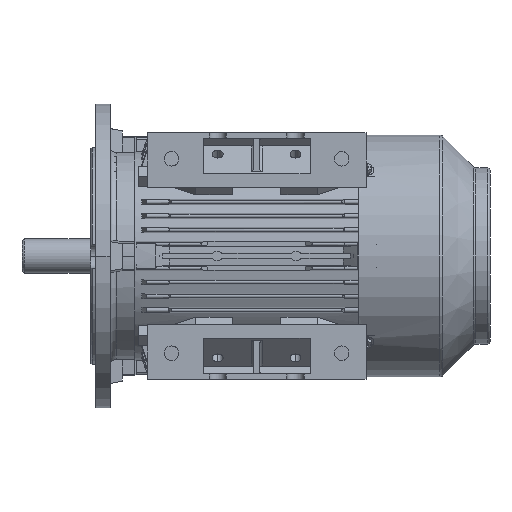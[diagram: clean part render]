
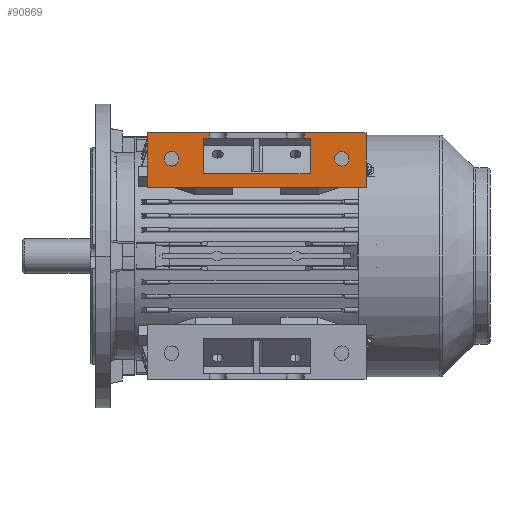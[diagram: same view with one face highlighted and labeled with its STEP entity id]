
A CAD part, front view. The second image highlights one B-rep face of the part: STEP entity #90869.
In plain terms, the highlighted planar face has unit normal (0, -1, 0).
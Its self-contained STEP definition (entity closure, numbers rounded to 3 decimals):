
#1 = CARTESIAN_POINT ( 'NONE',  ( -74.133, -87.16, 56.479 ) ) ;
#683 = AXIS2_PLACEMENT_3D ( 'NONE', #66580, #74823, #108296 ) ;
#728 = VERTEX_POINT ( 'NONE', #33501 ) ;
#3035 = VECTOR ( 'NONE', #37310, 1000. ) ;
#3155 = CARTESIAN_POINT ( 'NONE',  ( -54.133, -87.16, 86.021 ) ) ;
#4647 = ORIENTED_EDGE ( 'NONE', *, *, #31905, .T. ) ;
#4687 = ORIENTED_EDGE ( 'NONE', *, *, #7803, .F. ) ;
#5144 = ORIENTED_EDGE ( 'NONE', *, *, #54396, .T. ) ;
#6354 = DIRECTION ( 'NONE',  ( 0., 0., -1. ) ) ;
#7625 = VERTEX_POINT ( 'NONE', #31729 ) ;
#7803 = EDGE_CURVE ( 'NONE', #97374, #83077, #42104, .T. ) ;
#10520 = CARTESIAN_POINT ( 'NONE',  ( 59.867, -87.16, 101.479 ) ) ;
#10772 = VERTEX_POINT ( 'NONE', #92216 ) ;
#11298 = DIRECTION ( 'NONE',  ( 1., 0., 0. ) ) ;
#15708 = DIRECTION ( 'NONE',  ( 0., 0., 1. ) ) ;
#15928 = DIRECTION ( 'NONE',  ( 0., 1., 0. ) ) ;
#16368 = EDGE_LOOP ( 'NONE', ( #28173, #74440 ) ) ;
#18222 = EDGE_LOOP ( 'NONE', ( #62097, #87445, #101188, #5144, #4687, #4647, #71080, #51390, #89176, #63917, #35383, #18679 ) ) ;
#18399 = DIRECTION ( 'NONE',  ( 0., 1., 0. ) ) ;
#18520 = AXIS2_PLACEMENT_3D ( 'NONE', #89248, #22248, #88166 ) ;
#18620 = VERTEX_POINT ( 'NONE', #62565 ) ;
#18679 = ORIENTED_EDGE ( 'NONE', *, *, #37386, .F. ) ;
#18878 = VERTEX_POINT ( 'NONE', #34884 ) ;
#19263 = VERTEX_POINT ( 'NONE', #64988 ) ;
#20267 = CIRCLE ( 'NONE', #41381, 6. ) ;
#22248 = DIRECTION ( 'NONE',  ( 0., -1., 0. ) ) ;
#23114 = CARTESIAN_POINT ( 'NONE',  ( -34.133, -87.16, 101.479 ) ) ;
#23958 = CARTESIAN_POINT ( 'NONE',  ( -23.133, -87.16, 93.479 ) ) ;
#25573 = VERTEX_POINT ( 'NONE', #65200 ) ;
#25782 = DIRECTION ( 'NONE',  ( 0., 0., 1. ) ) ;
#27321 = DIRECTION ( 'NONE',  ( 0., 0., -1. ) ) ;
#28173 = ORIENTED_EDGE ( 'NONE', *, *, #81021, .T. ) ;
#30507 = CARTESIAN_POINT ( 'NONE',  ( 54.867, -87.16, 93.479 ) ) ;
#30893 = LINE ( 'NONE', #66012, #103493 ) ;
#31675 = LINE ( 'NONE', #23958, #56397 ) ;
#31729 = CARTESIAN_POINT ( 'NONE',  ( 54.867, -87.16, 96.979 ) ) ;
#31905 = EDGE_CURVE ( 'NONE', #97374, #86900, #32915, .T. ) ;
#32347 = CIRCLE ( 'NONE', #683, 6. ) ;
#32915 = LINE ( 'NONE', #76266, #69588 ) ;
#33501 = CARTESIAN_POINT ( 'NONE',  ( -23.133, -87.16, 101.479 ) ) ;
#33716 = CARTESIAN_POINT ( 'NONE',  ( 59.867, -87.16, 67.604 ) ) ;
#34557 = EDGE_CURVE ( 'NONE', #7625, #52439, #38231, .T. ) ;
#34884 = CARTESIAN_POINT ( 'NONE',  ( -74.133, -87.16, 101.479 ) ) ;
#35383 = ORIENTED_EDGE ( 'NONE', *, *, #86100, .F. ) ;
#36264 = EDGE_LOOP ( 'NONE', ( #97220, #39619 ) ) ;
#36375 = LINE ( 'NONE', #10520, #53766 ) ;
#37310 = DIRECTION ( 'NONE',  ( 1., 0., 0. ) ) ;
#37386 = EDGE_CURVE ( 'NONE', #52439, #25573, #39591, .T. ) ;
#38231 = LINE ( 'NONE', #30507, #79834 ) ;
#39572 = VERTEX_POINT ( 'NONE', #1 ) ;
#39591 = LINE ( 'NONE', #23114, #43411 ) ;
#39619 = ORIENTED_EDGE ( 'NONE', *, *, #48372, .T. ) ;
#40095 = DIRECTION ( 'NONE',  ( 0., 1., 0. ) ) ;
#40746 = LINE ( 'NONE', #74237, #87018 ) ;
#41381 = AXIS2_PLACEMENT_3D ( 'NONE', #105462, #40095, #47788 ) ;
#41507 = CARTESIAN_POINT ( 'NONE',  ( 105.867, -87.16, 56.479 ) ) ;
#41685 = DIRECTION ( 'NONE',  ( 1., 0., 0. ) ) ;
#41822 = CIRCLE ( 'NONE', #71662, 6. ) ;
#42104 = LINE ( 'NONE', #75613, #72082 ) ;
#43411 = VECTOR ( 'NONE', #11298, 1000. ) ;
#44439 = CARTESIAN_POINT ( 'NONE',  ( -34.133, -87.16, 96.979 ) ) ;
#47788 = DIRECTION ( 'NONE',  ( 0., 0., 1. ) ) ;
#48372 = EDGE_CURVE ( 'NONE', #18620, #10772, #63304, .T. ) ;
#50515 = CARTESIAN_POINT ( 'NONE',  ( 85.867, -87.16, 80.021 ) ) ;
#50645 = EDGE_CURVE ( 'NONE', #18878, #728, #30893, .T. ) ;
#51390 = ORIENTED_EDGE ( 'NONE', *, *, #50645, .F. ) ;
#52439 = VERTEX_POINT ( 'NONE', #67299 ) ;
#53766 = VECTOR ( 'NONE', #92958, 1000. ) ;
#54396 = EDGE_CURVE ( 'NONE', #70852, #83077, #77863, .T. ) ;
#54697 = FACE_BOUND ( 'NONE', #36264, .T. ) ;
#54890 = VECTOR ( 'NONE', #27321, 1000. ) ;
#55764 = FACE_OUTER_BOUND ( 'NONE', #18222, .T. ) ;
#56397 = VECTOR ( 'NONE', #15708, 1000. ) ;
#57232 = EDGE_CURVE ( 'NONE', #10772, #18620, #32347, .T. ) ;
#59040 = CARTESIAN_POINT ( 'NONE',  ( -74.133, -87.16, 56.479 ) ) ;
#59638 = DIRECTION ( 'NONE',  ( 0., 0., 1. ) ) ;
#62097 = ORIENTED_EDGE ( 'NONE', *, *, #34557, .F. ) ;
#62565 = CARTESIAN_POINT ( 'NONE',  ( 85.867, -87.16, 74.021 ) ) ;
#63113 = LINE ( 'NONE', #44439, #3035 ) ;
#63304 = CIRCLE ( 'NONE', #77329, 6. ) ;
#63917 = ORIENTED_EDGE ( 'NONE', *, *, #99736, .T. ) ;
#64988 = CARTESIAN_POINT ( 'NONE',  ( -54.133, -87.16, 74.021 ) ) ;
#65200 = CARTESIAN_POINT ( 'NONE',  ( 105.867, -87.16, 101.479 ) ) ;
#66012 = CARTESIAN_POINT ( 'NONE',  ( -34.133, -87.16, 101.479 ) ) ;
#66580 = CARTESIAN_POINT ( 'NONE',  ( 85.867, -87.16, 80.021 ) ) ;
#67299 = CARTESIAN_POINT ( 'NONE',  ( 54.867, -87.16, 101.479 ) ) ;
#68431 = CARTESIAN_POINT ( 'NONE',  ( -54.133, -87.16, 80.021 ) ) ;
#69081 = LINE ( 'NONE', #102541, #54890 ) ;
#69588 = VECTOR ( 'NONE', #41685, 1000. ) ;
#69645 = CARTESIAN_POINT ( 'NONE',  ( -34.133, -87.16, 67.604 ) ) ;
#70483 = VERTEX_POINT ( 'NONE', #3155 ) ;
#70852 = VERTEX_POINT ( 'NONE', #33716 ) ;
#71080 = ORIENTED_EDGE ( 'NONE', *, *, #84194, .T. ) ;
#71662 = AXIS2_PLACEMENT_3D ( 'NONE', #68431, #18399, #59638 ) ;
#71736 = DIRECTION ( 'NONE',  ( 0., 0., 1. ) ) ;
#71786 = CARTESIAN_POINT ( 'NONE',  ( -28.133, -87.16, 67.604 ) ) ;
#72082 = VECTOR ( 'NONE', #84364, 1000. ) ;
#72120 = CARTESIAN_POINT ( 'NONE',  ( 59.867, -87.16, 96.979 ) ) ;
#73126 = CARTESIAN_POINT ( 'NONE',  ( -28.133, -87.16, 96.979 ) ) ;
#74237 = CARTESIAN_POINT ( 'NONE',  ( -34.133, -87.16, 56.479 ) ) ;
#74440 = ORIENTED_EDGE ( 'NONE', *, *, #75943, .T. ) ;
#74823 = DIRECTION ( 'NONE',  ( 0., 1., 0. ) ) ;
#75613 = CARTESIAN_POINT ( 'NONE',  ( -28.133, -87.16, 101.479 ) ) ;
#75943 = EDGE_CURVE ( 'NONE', #19263, #70483, #20267, .T. ) ;
#76266 = CARTESIAN_POINT ( 'NONE',  ( -34.133, -87.16, 96.979 ) ) ;
#77329 = AXIS2_PLACEMENT_3D ( 'NONE', #50515, #15928, #25782 ) ;
#77863 = LINE ( 'NONE', #69645, #87400 ) ;
#79079 = EDGE_CURVE ( 'NONE', #91309, #70852, #36375, .T. ) ;
#79834 = VECTOR ( 'NONE', #71736, 1000. ) ;
#81021 = EDGE_CURVE ( 'NONE', #70483, #19263, #41822, .T. ) ;
#82473 = VECTOR ( 'NONE', #6354, 1000. ) ;
#83077 = VERTEX_POINT ( 'NONE', #71786 ) ;
#84194 = EDGE_CURVE ( 'NONE', #86900, #728, #31675, .T. ) ;
#84364 = DIRECTION ( 'NONE',  ( 0., 0., -1. ) ) ;
#86100 = EDGE_CURVE ( 'NONE', #25573, #95934, #69081, .T. ) ;
#86619 = CARTESIAN_POINT ( 'NONE',  ( -23.133, -87.16, 96.979 ) ) ;
#86900 = VERTEX_POINT ( 'NONE', #86619 ) ;
#87018 = VECTOR ( 'NONE', #107715, 1000. ) ;
#87400 = VECTOR ( 'NONE', #103112, 1000. ) ;
#87445 = ORIENTED_EDGE ( 'NONE', *, *, #102968, .T. ) ;
#88166 = DIRECTION ( 'NONE',  ( -1., 0., 0. ) ) ;
#89176 = ORIENTED_EDGE ( 'NONE', *, *, #96759, .T. ) ;
#89248 = CARTESIAN_POINT ( 'NONE',  ( -34.133, -87.16, 101.479 ) ) ;
#90869 = ADVANCED_FACE ( 'NONE', ( #55764, #54697, #104637 ), #95855, .T. ) ;
#91309 = VERTEX_POINT ( 'NONE', #72120 ) ;
#91480 = LINE ( 'NONE', #59040, #82473 ) ;
#92216 = CARTESIAN_POINT ( 'NONE',  ( 85.867, -87.16, 86.021 ) ) ;
#92958 = DIRECTION ( 'NONE',  ( 0., 0., -1. ) ) ;
#95855 = PLANE ( 'NONE',  #18520 ) ;
#95934 = VERTEX_POINT ( 'NONE', #41507 ) ;
#96759 = EDGE_CURVE ( 'NONE', #18878, #39572, #91480, .T. ) ;
#97220 = ORIENTED_EDGE ( 'NONE', *, *, #57232, .T. ) ;
#97374 = VERTEX_POINT ( 'NONE', #73126 ) ;
#99490 = DIRECTION ( 'NONE',  ( 1., 0., 0. ) ) ;
#99736 = EDGE_CURVE ( 'NONE', #39572, #95934, #40746, .T. ) ;
#101188 = ORIENTED_EDGE ( 'NONE', *, *, #79079, .T. ) ;
#102541 = CARTESIAN_POINT ( 'NONE',  ( 105.867, -87.16, 56.479 ) ) ;
#102968 = EDGE_CURVE ( 'NONE', #7625, #91309, #63113, .T. ) ;
#103112 = DIRECTION ( 'NONE',  ( -1., 0., 0. ) ) ;
#103493 = VECTOR ( 'NONE', #99490, 1000. ) ;
#104637 = FACE_BOUND ( 'NONE', #16368, .T. ) ;
#105462 = CARTESIAN_POINT ( 'NONE',  ( -54.133, -87.16, 80.021 ) ) ;
#107715 = DIRECTION ( 'NONE',  ( 1., 0., 0. ) ) ;
#108296 = DIRECTION ( 'NONE',  ( 0., 0., 1. ) ) ;
